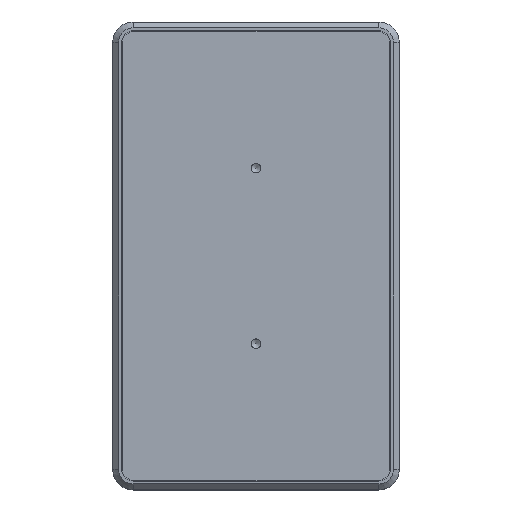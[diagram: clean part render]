
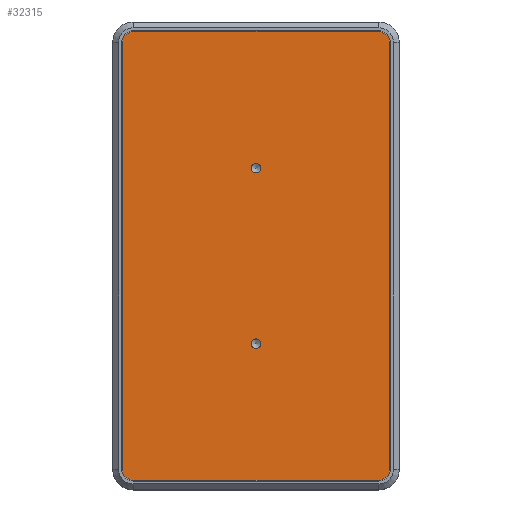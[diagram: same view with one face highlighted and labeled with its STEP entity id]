
A CAD part, top view. The second image highlights one B-rep face of the part: STEP entity #32315.
In plain terms, the highlighted planar face has unit normal (0, 0, 1).
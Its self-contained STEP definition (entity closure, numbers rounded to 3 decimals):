
#796=FACE_BOUND('',#5225,.T.);
#797=FACE_BOUND('',#5226,.T.);
#1547=PLANE('',#35407);
#3269=FACE_OUTER_BOUND('',#5224,.T.);
#5224=EDGE_LOOP('',(#27996,#27997,#27998,#27999,#28000,#28001,#28002,#28003));
#5225=EDGE_LOOP('',(#28004));
#5226=EDGE_LOOP('',(#28005));
#5538=CIRCLE('',#32908,4.);
#5539=CIRCLE('',#32911,4.);
#5540=CIRCLE('',#32914,4.);
#5541=CIRCLE('',#32917,4.);
#5542=CIRCLE('',#32919,1.621);
#5544=CIRCLE('',#32923,1.621);
#7877=LINE('',#45423,#10137);
#7881=LINE('',#45432,#10141);
#7884=LINE('',#45440,#10144);
#7887=LINE('',#45448,#10147);
#10137=VECTOR('',#36927,10.);
#10141=VECTOR('',#36937,10.);
#10144=VECTOR('',#36946,10.);
#10147=VECTOR('',#36955,10.);
#12417=VERTEX_POINT('',#45421);
#12418=VERTEX_POINT('',#45422);
#12419=VERTEX_POINT('',#45427);
#12420=VERTEX_POINT('',#45431);
#12421=VERTEX_POINT('',#45435);
#12422=VERTEX_POINT('',#45439);
#12423=VERTEX_POINT('',#45443);
#12424=VERTEX_POINT('',#45447);
#12425=VERTEX_POINT('',#45453);
#12428=VERTEX_POINT('',#45462);
#15533=EDGE_CURVE('',#12417,#12418,#7877,.T.);
#15536=EDGE_CURVE('',#12419,#12417,#5538,.T.);
#15538=EDGE_CURVE('',#12420,#12419,#7881,.T.);
#15540=EDGE_CURVE('',#12421,#12420,#5539,.T.);
#15542=EDGE_CURVE('',#12422,#12421,#7884,.T.);
#15544=EDGE_CURVE('',#12423,#12422,#5540,.T.);
#15546=EDGE_CURVE('',#12424,#12423,#7887,.T.);
#15548=EDGE_CURVE('',#12418,#12424,#5541,.T.);
#15549=EDGE_CURVE('',#12425,#12425,#5542,.T.);
#15553=EDGE_CURVE('',#12428,#12428,#5544,.T.);
#27996=ORIENTED_EDGE('',*,*,#15548,.F.);
#27997=ORIENTED_EDGE('',*,*,#15533,.F.);
#27998=ORIENTED_EDGE('',*,*,#15536,.F.);
#27999=ORIENTED_EDGE('',*,*,#15538,.F.);
#28000=ORIENTED_EDGE('',*,*,#15540,.F.);
#28001=ORIENTED_EDGE('',*,*,#15542,.F.);
#28002=ORIENTED_EDGE('',*,*,#15544,.F.);
#28003=ORIENTED_EDGE('',*,*,#15546,.F.);
#28004=ORIENTED_EDGE('',*,*,#15553,.T.);
#28005=ORIENTED_EDGE('',*,*,#15549,.T.);
#32315=ADVANCED_FACE('',(#3269,#796,#797),#1547,.F.);
#32908=AXIS2_PLACEMENT_3D('',#45428,#36932,#36933);
#32911=AXIS2_PLACEMENT_3D('',#45436,#36941,#36942);
#32914=AXIS2_PLACEMENT_3D('',#45444,#36950,#36951);
#32917=AXIS2_PLACEMENT_3D('',#45451,#36959,#36960);
#32919=AXIS2_PLACEMENT_3D('',#45454,#36963,#36964);
#32923=AXIS2_PLACEMENT_3D('',#45463,#36973,#36974);
#35407=AXIS2_PLACEMENT_3D('',#81635,#43743,#43744);
#36927=DIRECTION('',(-1.,0.,0.));
#36932=DIRECTION('center_axis',(0.,0.,
-1.));
#36933=DIRECTION('ref_axis',(0.,-1.,0.));
#36937=DIRECTION('',(0.,-1.,0.));
#36941=DIRECTION('center_axis',(0.,0.,
-1.));
#36942=DIRECTION('ref_axis',(1.,0.,0.));
#36946=DIRECTION('',(1.,0.,0.));
#36950=DIRECTION('center_axis',(0.,0.,
-1.));
#36951=DIRECTION('ref_axis',(0.,1.,0.));
#36955=DIRECTION('',(0.,1.,0.));
#36959=DIRECTION('center_axis',(0.,0.,
-1.));
#36960=DIRECTION('ref_axis',(-1.,0.,0.));
#36963=DIRECTION('center_axis',(0.,0.,
-1.));
#36964=DIRECTION('ref_axis',(1.,0.,0.));
#36973=DIRECTION('center_axis',(0.,0.,
-1.));
#36974=DIRECTION('ref_axis',(1.,0.,0.));
#43743=DIRECTION('center_axis',(0.,0.,
-1.));
#43744=DIRECTION('ref_axis',(-1.,0.,0.));
#45421=CARTESIAN_POINT('',(91.074,4.14,33.));
#45422=CARTESIAN_POINT('',(7.574,4.14,33.));
#45423=CARTESIAN_POINT('',(7.574,4.14,33.));
#45427=CARTESIAN_POINT('',(95.074,8.14,33.));
#45428=CARTESIAN_POINT('Origin',(91.074,8.14,33.));
#45431=CARTESIAN_POINT('',(95.074,153.64,33.));
#45432=CARTESIAN_POINT('',(95.074,8.14,33.));
#45435=CARTESIAN_POINT('',(91.074,157.64,33.));
#45436=CARTESIAN_POINT('Origin',(91.074,153.64,33.));
#45439=CARTESIAN_POINT('',(7.574,157.64,33.));
#45440=CARTESIAN_POINT('',(91.074,157.64,33.));
#45443=CARTESIAN_POINT('',(3.574,153.64,33.));
#45444=CARTESIAN_POINT('Origin',(7.574,153.64,33.));
#45447=CARTESIAN_POINT('',(3.574,8.14,33.));
#45448=CARTESIAN_POINT('',(3.574,153.64,33.));
#45451=CARTESIAN_POINT('Origin',(7.574,8.14,33.));
#45453=CARTESIAN_POINT('',(47.703,50.89,33.));
#45454=CARTESIAN_POINT('Origin',(49.324,50.89,33.));
#45462=CARTESIAN_POINT('',(47.703,110.89,33.));
#45463=CARTESIAN_POINT('Origin',(49.324,110.89,33.));
#81635=CARTESIAN_POINT('Origin',(89.324,151.89,33.));
